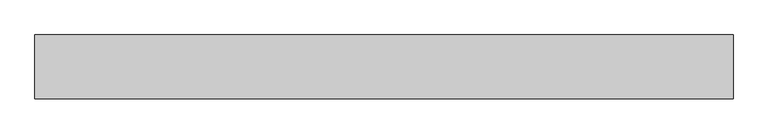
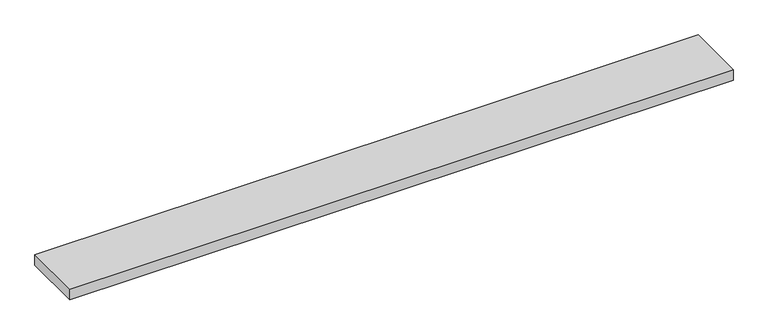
"""IFC4 building model written with IfcOpenShell, lengths in millimetres: proxy geometry, Vita_Решетка : РАП_Алюминиевая продольная."""

from ifc_helpers import new_model, si_unit, frame, origin, place, context, project, spatial, polyline, outline, extrude, source, transform, mapped, element, save


def mechanical_equipment_9682c6bd(model_context):
    return source(origin(), model_context, "Body", "SweptSolid", [
        extrude(outline(polyline([(-599.0, -112.8), (599.0, -112.8), (599.0, -222.2), (-599.0, -222.2), (-599.0, -112.8)])), frame((0.0, 0.0, 479.83), z_axis=(0.0, 0.0, 1.0), x_axis=(1.0, 0.0, 0.0)), (0.0, 0.0, 1.0), 20.17),
    ])


if __name__ == "__main__":
    model = new_model("IFC4")
    model_context = context("Model", 3, world=origin())
    ifc_project = project(units=[si_unit("LENGTHUNIT", "METRE", prefix="MILLI")], contexts=[model_context])
    site = spatial("IfcSite", under=ifc_project)
    building = spatial("IfcBuilding", under=site)
    placement = place(None, origin())
    mechanical_equipment_shape = mechanical_equipment_9682c6bd(model_context)
    element("IfcBuildingElementProxy", 1, Name="Vita_Решетка : РАП_Алюминиевая продольная", ObjectType="Vita_Решетка : РАП_Алюминиевая продольная", at=placement, inside=building, context=model_context, shape_type="MappedRepresentation", body=[
        mapped(mechanical_equipment_shape, transform((0.0, 0.0, 0.0), x_axis=(1.0, 0.0, 0.0), y_axis=(0.0, 1.0, 0.0), z_axis=(0.0, 0.0, 1.0))),
    ])
    save(model, "model.ifc")
